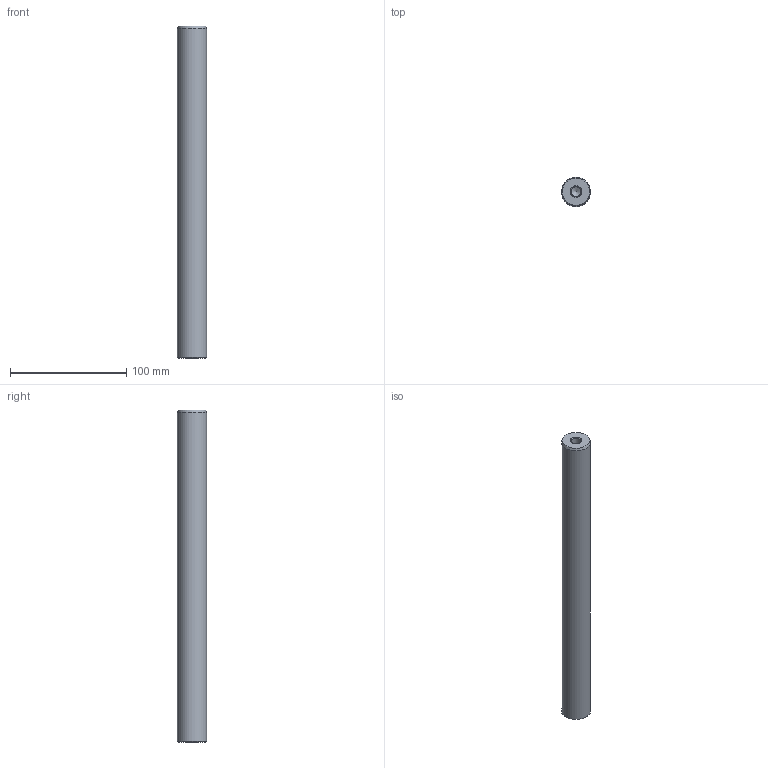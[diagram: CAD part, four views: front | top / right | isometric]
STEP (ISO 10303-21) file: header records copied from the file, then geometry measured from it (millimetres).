
FILE_DESCRIPTION( ( 'STEP AP214' ), '1' );
FILE_NAME( 'U:/Etudes/Top Solid/BIBLIO_Fournisseur/Colonnes UG/Ø25x286.step', '2004-12-22T12:43:14', ( ' ' ), ( ' ' ), 'XStep 1.0', ' ', ' ' );
FILE_SCHEMA( ( 'automotive_design' ) );
Length unit declared in the file: metre
Products named in the file (1): 1
Bounding box: 25 x 25 x 286 mm (x, y, z)
Volume: 137342.6 mm3; surface area: 24736.9 mm2
Topology: 1 solids, 1 shells, 13 faces, 27 edges, 16 vertices
Faces by surface type: cone 6, cylinder 5, plane 2
Full cylindrical faces by diameter (mm): 8.376 x4, 25 x1
Entity records: 382 total; most frequent: DIRECTION 52, CARTESIAN_POINT 40, AXIS2_PLACEMENT_3D 26, EDGE_LOOP 24, ORIENTED_EDGE 24, FACE_OUTER_BOUND 18, VERTEX_POINT 14, STYLED_ITEM 13
